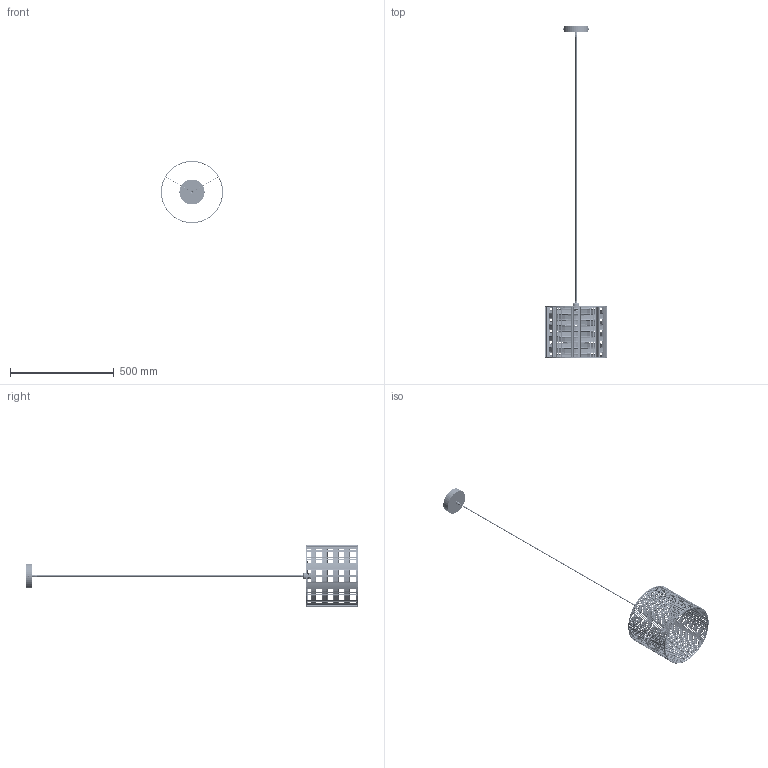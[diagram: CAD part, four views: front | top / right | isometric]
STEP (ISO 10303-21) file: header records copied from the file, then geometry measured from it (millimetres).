
FILE_DESCRIPTION(/* description */ (''),/* implementation_level */ '2;1');
FILE_NAME(/* name */ 'C:/Users/kubaw/OneDrive/Pulpit/Nowy folder (3)/6580_JUTA v4.step',/* time_stamp */ '2021-12-11T12:42:16+01:00',/* author */ (''),/* organization */ (''),/* preprocessor_version */ 'ST-DEVELOPER v18.1',/* originating_system */ 'Autodesk Translation Framework v10.10.0.1391',/* authorisation */ '');
FILE_SCHEMA (('AUTOMOTIVE_DESIGN { 1 0 10303 214 3 1 1 }'));
Products named in the file (3): 6580_JUTA; MOCOWANIE_JUTA; ŚRUBA_J
Assembly tree (3 placements, depth 2):
  6580_JUTA
    MOCOWANIE_JUTA
    ŚRUBA_J  x2
Bounding box: 300 x 1600 x 300 mm (x, y, z)
Volume: 511330.8 mm3; surface area: 761696 mm2
Topology: 820 solids, 820 shells, 9808 faces, 20098 edges, 11934 vertices
Faces by surface type: cylinder 4941, plane 3865, torus 990, bspline 9, cone 3
Full cylindrical faces by diameter (mm): 2 x6, 5 x1, 6.68 x1, 7.68 x1, 8.8 x1, 9.6 x2, 14.947 x2, 19.84 x1, 24.929 x10, 26.88 x1, 28.8 x3, 32 x1, 33 x1, 33.12 x1, 38 x1, 120 x1, 292 x2, 296 x245, 297 x245, 300 x2
Entity records: 269858 total; most frequent: DIRECTION 47971, CARTESIAN_POINT 47649, ORIENTED_EDGE 40088, EDGE_CURVE 20044, AXIS2_PLACEMENT_3D 18206, VERTEX_POINT 11898, LINE 11559, VECTOR 11559
